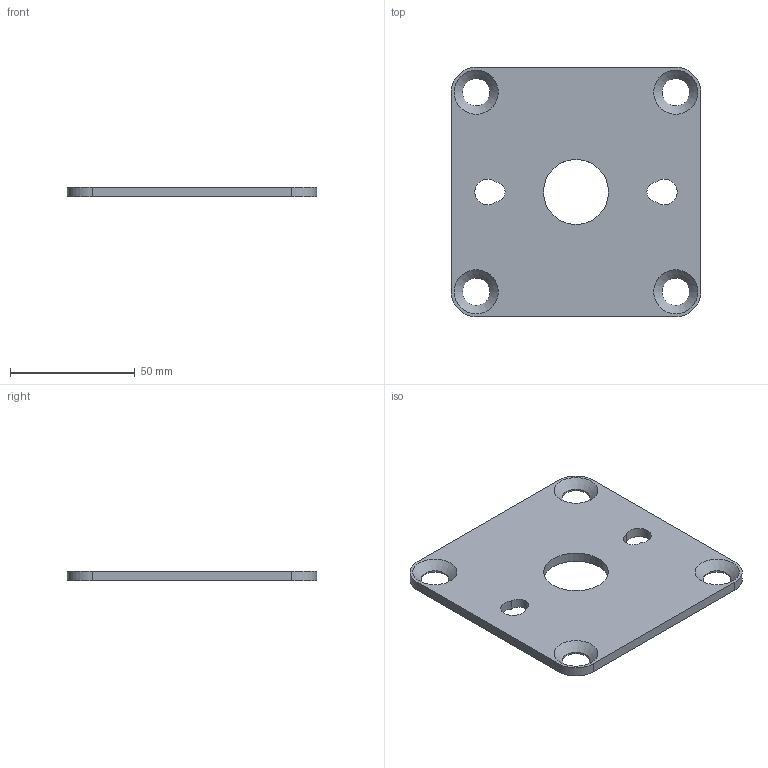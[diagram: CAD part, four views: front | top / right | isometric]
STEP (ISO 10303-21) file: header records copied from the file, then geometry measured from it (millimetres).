
FILE_DESCRIPTION(/* description */ ('MOUNTING PLATE'),/* implementation_level */ '2;1');
FILE_NAME(/* name */ '500-3077.stp',/* time_stamp */ '2022-09-22T08:52:03+02:00',/* author */ ('RH'),/* organization */ ('CARRYLINE'),/* preprocessor_version */ 'ST-DEVELOPER v19.2',/* originating_system */ 'Autodesk Inventor 2023',/* authorisation */ '');
FILE_SCHEMA (('AUTOMOTIVE_DESIGN { 1 0 10303 214 3 1 1 }'));
Length unit declared in the file: millimetre
Products named in the file (1): 500-3077
Bounding box: 100 x 100 x 4 mm (x, y, z)
Volume: 34325.4 mm3; surface area: 20107.6 mm2
Topology: 1 solids, 1 shells, 23 faces, 59 edges, 38 vertices
Faces by surface type: cylinder 13, plane 6, cone 4
Full cylindrical faces by diameter (mm): 11 x4, 26 x1
Entity records: 782 total; most frequent: DIRECTION 137, CARTESIAN_POINT 121, ORIENTED_EDGE 118, EDGE_CURVE 59, AXIS2_PLACEMENT_3D 54, VERTEX_POINT 38, EDGE_LOOP 37, CIRCLE 30
